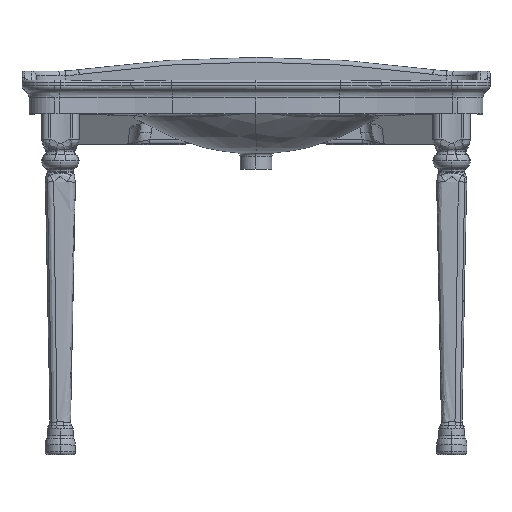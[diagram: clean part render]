
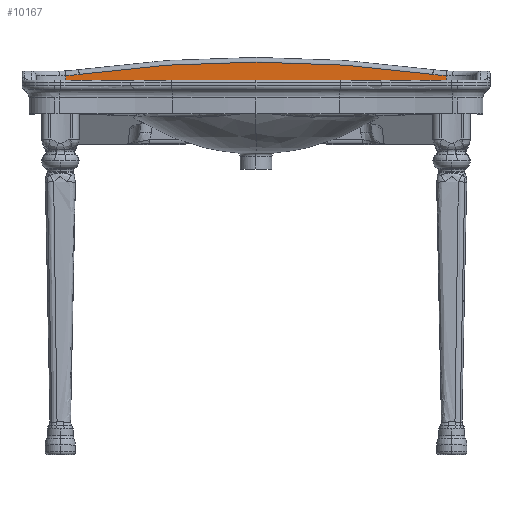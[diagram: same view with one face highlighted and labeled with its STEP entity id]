
A CAD part, top view. The second image highlights one B-rep face of the part: STEP entity #10167.
In plain terms, the highlighted planar face has unit normal (0, 0, 1).
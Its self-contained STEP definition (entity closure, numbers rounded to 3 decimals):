
#2047 = EDGE_CURVE ( 'NONE', #37073, #44731, #54414, .T. ) ;
#2394 = FACE_OUTER_BOUND ( 'NONE', #14469, .T. ) ;
#2410 = CARTESIAN_POINT ( 'NONE',  ( 2695.826, 2499.973, -425.215 ) ) ;
#2450 = ORIENTED_EDGE ( 'NONE', *, *, #36707, .F. ) ;
#2775 = CARTESIAN_POINT ( 'NONE',  ( 2632.826, 2537.973, -425.215 ) ) ;
#3238 = DIRECTION ( 'NONE',  ( 1., 0., 0. ) ) ;
#3653 = CARTESIAN_POINT ( 'NONE',  ( 2680.55, 2842.973, -425.215 ) ) ;
#9875 = LINE ( 'NONE', #22006, #74776 ) ;
#10167 = ADVANCED_FACE ( 'NONE', ( #2394 ), #63019, .F. ) ;
#12197 = EDGE_CURVE ( 'NONE', #65179, #44731, #9875, .T. ) ;
#13890 = CARTESIAN_POINT ( 'NONE',  ( 2695.826, 2509.973, -425.215 ) ) ;
#14469 = EDGE_LOOP ( 'NONE', ( #45850, #51582, #2450, #40228, #68329, #42428 ) ) ;
#17011 = VECTOR ( 'NONE', #18808, 1000. ) ;
#17066 = AXIS2_PLACEMENT_3D ( 'NONE', #66607, #25132, #37262 ) ;
#18459 = DIRECTION ( 'NONE',  ( 0., 0., 1. ) ) ;
#18808 = DIRECTION ( 'NONE',  ( 0., -1., 0. ) ) ;
#20789 = DIRECTION ( 'NONE',  ( 0., -1., 0. ) ) ;
#22006 = CARTESIAN_POINT ( 'NONE',  ( 2632.826, 2509.973, -425.215 ) ) ;
#23636 = CIRCLE ( 'NONE', #52386, 323. ) ;
#25132 = DIRECTION ( 'NONE',  ( 0., 0., 1. ) ) ;
#27359 = CARTESIAN_POINT ( 'NONE',  ( 3480.554, 2523.06, -425.215 ) ) ;
#27578 = EDGE_CURVE ( 'NONE', #52290, #57962, #70380, .T. ) ;
#36707 = EDGE_CURVE ( 'NONE', #52290, #37073, #64555, .T. ) ;
#37073 = VERTEX_POINT ( 'NONE', #38810 ) ;
#37262 = DIRECTION ( 'NONE',  ( 1., 0., 0. ) ) ;
#38810 = CARTESIAN_POINT ( 'NONE',  ( 3509.826, 2520.334, -425.215 ) ) ;
#39939 = DIRECTION ( 'NONE',  ( 0., 0., -1. ) ) ;
#40228 = ORIENTED_EDGE ( 'NONE', *, *, #27578, .T. ) ;
#42321 = DIRECTION ( 'NONE',  ( -1., 0., 0. ) ) ;
#42367 = CARTESIAN_POINT ( 'NONE',  ( 2725.098, 2523.06, -425.215 ) ) ;
#42428 = ORIENTED_EDGE ( 'NONE', *, *, #62144, .T. ) ;
#44731 = VERTEX_POINT ( 'NONE', #55301 ) ;
#45022 = DIRECTION ( 'NONE',  ( 0., -1., 0. ) ) ;
#45850 = ORIENTED_EDGE ( 'NONE', *, *, #12197, .T. ) ;
#46010 = VECTOR ( 'NONE', #20789, 1000. ) ;
#48186 = CARTESIAN_POINT ( 'NONE',  ( 3102.826, -189.517, -425.215 ) ) ;
#51356 = DIRECTION ( 'NONE',  ( 0., 0., -1. ) ) ;
#51582 = ORIENTED_EDGE ( 'NONE', *, *, #2047, .F. ) ;
#52290 = VERTEX_POINT ( 'NONE', #27359 ) ;
#52386 = AXIS2_PLACEMENT_3D ( 'NONE', #3653, #51356, #70135 ) ;
#54414 = LINE ( 'NONE', #66931, #17011 ) ;
#55301 = CARTESIAN_POINT ( 'NONE',  ( 3509.826, 2509.973, -425.215 ) ) ;
#57962 = VERTEX_POINT ( 'NONE', #42367 ) ;
#61961 = AXIS2_PLACEMENT_3D ( 'NONE', #2775, #39939, #45022 ) ;
#62144 = EDGE_CURVE ( 'NONE', #67710, #65179, #75177, .T. ) ;
#63019 = PLANE ( 'NONE',  #61961 ) ;
#63581 = CARTESIAN_POINT ( 'NONE',  ( 2695.826, 2520.334, -425.215 ) ) ;
#64555 = CIRCLE ( 'NONE', #17066, 323. ) ;
#65179 = VERTEX_POINT ( 'NONE', #13890 ) ;
#65412 = AXIS2_PLACEMENT_3D ( 'NONE', #48186, #18459, #42321 ) ;
#66607 = CARTESIAN_POINT ( 'NONE',  ( 3525.102, 2842.973, -425.215 ) ) ;
#66828 = EDGE_CURVE ( 'NONE', #57962, #67710, #23636, .T. ) ;
#66931 = CARTESIAN_POINT ( 'NONE',  ( 3509.826, 2499.973, -425.215 ) ) ;
#67710 = VERTEX_POINT ( 'NONE', #63581 ) ;
#68329 = ORIENTED_EDGE ( 'NONE', *, *, #66828, .T. ) ;
#70135 = DIRECTION ( 'NONE',  ( -1., 0., 0. ) ) ;
#70380 = CIRCLE ( 'NONE', #65412, 2738.75 ) ;
#74776 = VECTOR ( 'NONE', #3238, 1000. ) ;
#75177 = LINE ( 'NONE', #2410, #46010 ) ;
